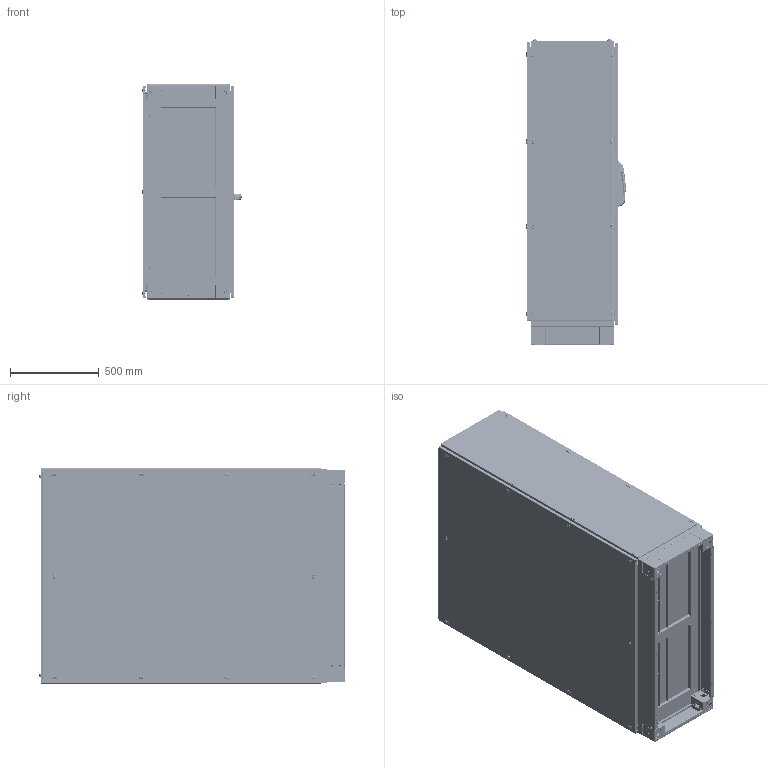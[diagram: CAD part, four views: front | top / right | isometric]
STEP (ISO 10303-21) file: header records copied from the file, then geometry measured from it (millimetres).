
FILE_DESCRIPTION (( 'STEP AP203' ), '1' );
FILE_NAME ('712.165 1200x1600x500.STEP', '2020-04-07T19:10:38', ( '' ), ( '' ), 'SwSTEP 2.0', 'SolidWorks 2019', '' );
FILE_SCHEMA (( 'CONFIG_CONTROL_DESIGN' ));
Length unit declared in the file: millimetre
Products named in the file (161): PB 14.0004 M6 HAVÞA PLASTÝK CÝVATA; on citaVER3 teos26-12 2018-2_1200; Teos-Neo MP Durdurucu; lama1 2018-2; MP 18.7631 32002136; mp aLT DAYAMA_PP 12.0092 - 500; M6 KAFES SOMU2015; ENINE DELIKLI PROFIL 2018-2_1200; 8502-001-M6_kapal-_1 2018-2; M5 DÝKEY PROFÝL RONDELA; MP 18.7631 Arka Kapak; MP 18.7631 204 handle REV04 tekpan logo; k2-30 2018-2; MP 18.7631 Gövde-Plastik; M6 HAVÞA PLASTÝK CÝVATA; V2 BAZA KOSESI2015_100; BAZA KÖÞES_SOL; k2-26 2018-2; TEOS V2 BAZA S嵞TEM廆1200X500; delikli profil cerceve 2018-2_1200x1600; k2-27 2018-2; 03-KOSE PUNT; YP1189-2-M6_1_1 2018-2; CUBUK MODELLER2016 2018-2_1600 ㌍ft; percinli taban-vidalý kapak-kose pls yok_701.250-120X50 ALT; TEOS-NEO MP Sag Dayama; k2-34 2018-2; Teos-Neo MP Sað Braket Montaj_Standart Pozisyon; Teos-Neo MP Sað Braketi; 03-TABAN SACI U1 04-2012_PP 12.0043 - 1200-75; V2 -2011 DT BAZA KAPAGI ON_PP 12.0048 - 1200; socket button head cap screw_am_B18.3.4M - 12 x 1.75 x 30 SBHCS --N; kapali dikey profilkenetli_ita oluklu10-aaaaaaaaaaaa-1_1600; L KOSE DESTEKorj1; k2-33 2018-2; MP 18.7631 Modul; 03-TABAN SACI U1 04-2012_PP 12.0038 - 1200-200; kose rondela kabartmaSIZ 12; MP 11.0188 DAYAMA VE KÝLTLEME AL10.2016 2018-2; kose rondela kabartmaSIZ 10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
Assembly tree (462 placements, depth 7):
  712.165 1200x1600x500
    TEOS iskelet_1200x1600x500
      kapali dikey profilkenetli_ita oluklu10-aaaaaaaaaaaa-1_1600  x4
      kapali dikey profilkenetli_ita oluklu10-aaaaaaaaaaaa-1_500  x4
      kapali dikey profilkenetli_ita oluklu10-aaaaaaaaaaaa-1_1200 gen  x4
      L KOSE DESTEKorj1  x8
      kose rondela kabartmaSIZ 10  x15
      kose rondela kabartmaSIZ 12
      MP 11.0140 TEOS ALUMINYUM KOSE APPROVED 16.08.2010  x8
      M5 DÝKEY PROFÝL RONDELA  x16
      percinli taban-vidalý kapak-kose pls yok_701.250-120X50 ALT
        03-taban genislik percinli 04 - 2012 100-120_PP 12.0021 - 1200  x2
        03taban derinlik percinli_PP 12.0024 - 500  x2
        03-KOSE PUNT_PP 12.0027
        03-KOSE PUNT
        Mirror03-KOSE PUNT  x2
        TEOS V2 BAZA S嵞TEM廆1200X500
          BAZA KÖÞES_SAG
            V2 BAZA KOSESI2015_100
            BAZA SISTEMIV2-6 baza kapaðý201550x40_TEKPAN LOGOLU
            M6 KAFES SOMU2015
              kafes somun kafes
              somu
            M6 KAFES SOMU2015
              kafes somun kafes
              somu
          V2 -2011 DT BAZA KAPAGI ON_PP 12.0048 - 1200  x2
          BAZA KÖÞES_SOL
            V2 BAZA KOSESI2015_100
            BAZA SISTEMIV2-6 baza kapaðý201550x40
            M6 KAFES SOMU2015
              kafes somun kafes
              somu
            M6 KAFES SOMU2015
              kafes somun kafes
              somu
          BAZA KÖÞES_SAG
            V2 BAZA KOSESI2015_100
            BAZA SISTEMIV2-6 baza kapaðý201550x40_TEKPAN LOGOLU
            M6 KAFES SOMU2015
              kafes somun kafes
              somu
            M6 KAFES SOMU2015
              kafes somun kafes
              somu
          BAZA KÖÞES_SOL
            V2 BAZA KOSESI2015_100
            BAZA SISTEMIV2-6 baza kapaðý201550x40
            M6 KAFES SOMU2015
              kafes somun kafes
              somu
            M6 KAFES SOMU2015
              kafes somun kafes
              somu
          V3 -2011 DT BAZA KAPAGI yan_PP 12.0050 - 500  x2
          flat head screw_am_B18.6.7M - M6 x 1.0 x 20 Type I Cross Recessed FHMS --20N  x8
        03taban derinlik orta  percinli 04-2012_PP 12.0054 -500
        03-TABAN SACI SURGU_PP 12.0033 - 1200  x2
        03-TABAN SACI U1 04-2012_PP 12.0043 - 1200-75  x2
        03-TABAN SACI U1 04-2012_PP 12.0038 - 1200-200  x2
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Bounding box: 559.22 x 1717.1 x 1218.87 mm (x, y, z)
Volume: 25327106.7 mm3; surface area: 26470364.7 mm2
Topology: 398 solids, 438 shells, 57873 faces, 157215 edges, 99882 vertices
Faces by surface type: plane 35220, cylinder 16742, bspline 2714, torus 1263, cone 1189, sphere 745
Entity records: 810038 total; most frequent: CARTESIAN_POINT 334284, ORIENTED_EDGE 97282, DIRECTION 88053, EDGE_CURVE 48641, LINE 31365, VECTOR 31365, VERTEX_POINT 31064, AXIS2_PLACEMENT_3D 28344
